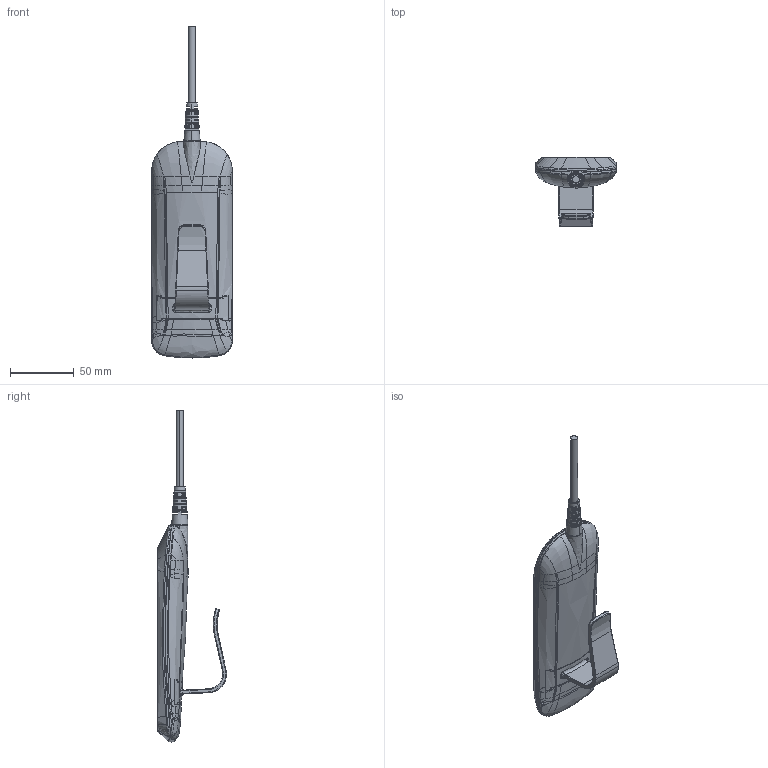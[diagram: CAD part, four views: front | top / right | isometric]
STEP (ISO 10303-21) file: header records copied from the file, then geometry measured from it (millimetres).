
FILE_DESCRIPTION (( 'STEP AP203' ), '1' );
FILE_NAME ('hs10.STEP', '2024-12-05T01:05:59', ( '' ), ( '' ), 'SwSTEP 2.0', 'SolidWorks 2023', '' );
FILE_SCHEMA (( 'CONFIG_CONTROL_DESIGN' ));
Products named in the file (1): hs10
Bounding box: 63 x 54.1 x 259.99 mm (x, y, z)
Surface area: 44766.5 mm2 (no closed solid volume)
Topology: 0 solids, 5 shells, 622 faces, 1751 edges, 1139 vertices
Faces by surface type: bspline 622
Entity records: 44111 total; most frequent: CARTESIAN_POINT 34401, ORIENTED_EDGE 3244, EDGE_CURVE 1741, B_SPLINE_CURVE_WITH_KNOTS 1315, VERTEX_POINT 1139, EDGE_LOOP 680, FACE_OUTER_BOUND 622, ADVANCED_FACE 622
